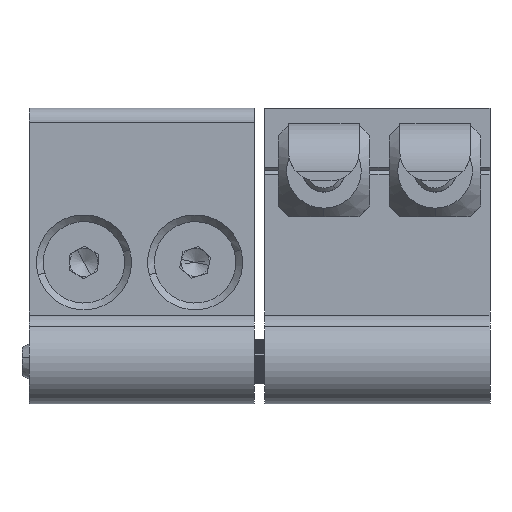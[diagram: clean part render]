
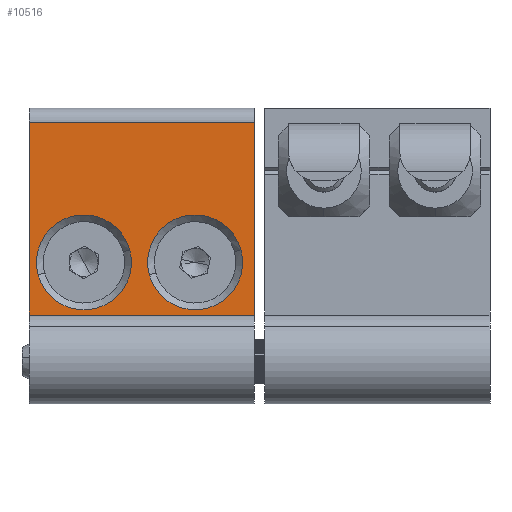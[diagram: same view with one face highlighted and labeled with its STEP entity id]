
A CAD part, front view. The second image highlights one B-rep face of the part: STEP entity #10516.
In plain terms, the highlighted planar face has unit normal (0, -1, 0).
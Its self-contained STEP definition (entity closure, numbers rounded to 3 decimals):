
#140 = CARTESIAN_POINT ( 'NONE',  ( -14.86, 3.429, -4.704 ) ) ;
#286 = VECTOR ( 'NONE', #6784, 1000. ) ;
#2138 = CARTESIAN_POINT ( 'NONE',  ( -39.06, 3.429, 2.782 ) ) ;
#2419 = EDGE_CURVE ( 'NONE', #23692, #26461, #23491, .T. ) ;
#3253 = ORIENTED_EDGE ( 'NONE', *, *, #4251, .F. ) ;
#3654 = DIRECTION ( 'NONE',  ( 0., 0., -1. ) ) ;
#3669 = CIRCLE ( 'NONE', #29510, 6.75 ) ;
#3769 = DIRECTION ( 'NONE',  ( 1., 0., 0. ) ) ;
#3882 = VERTEX_POINT ( 'NONE', #13625 ) ;
#4058 = CARTESIAN_POINT ( 'NONE',  ( -46.86, 3.429, -4.704 ) ) ;
#4251 = EDGE_CURVE ( 'NONE', #26155, #24048, #15334, .T. ) ;
#4832 = EDGE_LOOP ( 'NONE', ( #12842, #12892, #26760, #12056 ) ) ;
#4903 = CIRCLE ( 'NONE', #15172, 6.75 ) ;
#5330 = EDGE_CURVE ( 'NONE', #29412, #3882, #18668, .T. ) ;
#6726 = LINE ( 'NONE', #25185, #17387 ) ;
#6784 = DIRECTION ( 'NONE',  ( 0., 0., 1. ) ) ;
#6852 = VERTEX_POINT ( 'NONE', #29506 ) ;
#7318 = DIRECTION ( 'NONE',  ( 1., 0., 0. ) ) ;
#7970 = LINE ( 'NONE', #8555, #13394 ) ;
#8516 = AXIS2_PLACEMENT_3D ( 'NONE', #17409, #9961, #3654 ) ;
#8555 = CARTESIAN_POINT ( 'NONE',  ( -14.86, 3.429, 22.682 ) ) ;
#9450 = EDGE_CURVE ( 'NONE', #6852, #21596, #6726, .T. ) ;
#9961 = DIRECTION ( 'NONE',  ( 0., -1., 0. ) ) ;
#10344 = AXIS2_PLACEMENT_3D ( 'NONE', #2138, #22886, #27745 ) ;
#10417 = AXIS2_PLACEMENT_3D ( 'NONE', #19652, #17815, #3769 ) ;
#10516 = ADVANCED_FACE ( 'NONE', ( #24716, #19691, #19847 ), #26144, .T. ) ;
#11390 = CARTESIAN_POINT ( 'NONE',  ( -45.577, 3.429, 1.021 ) ) ;
#11675 = CARTESIAN_POINT ( 'NONE',  ( -39.06, 3.429, 2.782 ) ) ;
#12056 = ORIENTED_EDGE ( 'NONE', *, *, #9450, .T. ) ;
#12559 = CARTESIAN_POINT ( 'NONE',  ( -23.26, 3.429, 2.782 ) ) ;
#12842 = ORIENTED_EDGE ( 'NONE', *, *, #20790, .T. ) ;
#12892 = ORIENTED_EDGE ( 'NONE', *, *, #5330, .T. ) ;
#13394 = VECTOR ( 'NONE', #29316, 1000. ) ;
#13625 = CARTESIAN_POINT ( 'NONE',  ( -14.86, 3.429, 22.682 ) ) ;
#13687 = DIRECTION ( 'NONE',  ( -1., 0., 0. ) ) ;
#14014 = DIRECTION ( 'NONE',  ( 0., -1., 0. ) ) ;
#15172 = AXIS2_PLACEMENT_3D ( 'NONE', #11675, #14014, #13687 ) ;
#15302 = EDGE_LOOP ( 'NONE', ( #18272, #3253 ) ) ;
#15334 = CIRCLE ( 'NONE', #10417, 6.75 ) ;
#15454 = EDGE_CURVE ( 'NONE', #26461, #23692, #4903, .T. ) ;
#16425 = ORIENTED_EDGE ( 'NONE', *, *, #15454, .F. ) ;
#16571 = ORIENTED_EDGE ( 'NONE', *, *, #2419, .F. ) ;
#16596 = CARTESIAN_POINT ( 'NONE',  ( -29.777, 3.429, 1.021 ) ) ;
#16858 = DIRECTION ( 'NONE',  ( 0., -1., 0. ) ) ;
#17387 = VECTOR ( 'NONE', #22874, 1000. ) ;
#17409 = CARTESIAN_POINT ( 'NONE',  ( -14.22, 3.429, 8.989 ) ) ;
#17815 = DIRECTION ( 'NONE',  ( 0., -1., 0. ) ) ;
#18272 = ORIENTED_EDGE ( 'NONE', *, *, #29975, .F. ) ;
#18668 = LINE ( 'NONE', #27350, #286 ) ;
#19205 = LINE ( 'NONE', #25768, #29793 ) ;
#19652 = CARTESIAN_POINT ( 'NONE',  ( -23.26, 3.429, 2.782 ) ) ;
#19691 = FACE_BOUND ( 'NONE', #24259, .T. ) ;
#19847 = FACE_OUTER_BOUND ( 'NONE', #4832, .T. ) ;
#20147 = CARTESIAN_POINT ( 'NONE',  ( -16.744, 3.429, 4.542 ) ) ;
#20790 = EDGE_CURVE ( 'NONE', #21596, #29412, #19205, .T. ) ;
#21596 = VERTEX_POINT ( 'NONE', #4058 ) ;
#21845 = DIRECTION ( 'NONE',  ( 1., 0., 0. ) ) ;
#22874 = DIRECTION ( 'NONE',  ( 0., 0., -1. ) ) ;
#22886 = DIRECTION ( 'NONE',  ( 0., -1., 0. ) ) ;
#23491 = CIRCLE ( 'NONE', #10344, 6.75 ) ;
#23692 = VERTEX_POINT ( 'NONE', #11390 ) ;
#24048 = VERTEX_POINT ( 'NONE', #16596 ) ;
#24259 = EDGE_LOOP ( 'NONE', ( #16571, #16425 ) ) ;
#24716 = FACE_BOUND ( 'NONE', #15302, .T. ) ;
#25185 = CARTESIAN_POINT ( 'NONE',  ( -46.86, 3.429, 22.682 ) ) ;
#25768 = CARTESIAN_POINT ( 'NONE',  ( -46.86, 3.429, -4.704 ) ) ;
#26144 = PLANE ( 'NONE',  #8516 ) ;
#26155 = VERTEX_POINT ( 'NONE', #20147 ) ;
#26461 = VERTEX_POINT ( 'NONE', #30033 ) ;
#26760 = ORIENTED_EDGE ( 'NONE', *, *, #29227, .T. ) ;
#27350 = CARTESIAN_POINT ( 'NONE',  ( -14.86, 3.429, -4.704 ) ) ;
#27745 = DIRECTION ( 'NONE',  ( -1., 0., 0. ) ) ;
#29227 = EDGE_CURVE ( 'NONE', #3882, #6852, #7970, .T. ) ;
#29316 = DIRECTION ( 'NONE',  ( -1., 0., 0. ) ) ;
#29412 = VERTEX_POINT ( 'NONE', #140 ) ;
#29506 = CARTESIAN_POINT ( 'NONE',  ( -46.86, 3.429, 22.682 ) ) ;
#29510 = AXIS2_PLACEMENT_3D ( 'NONE', #12559, #16858, #21845 ) ;
#29793 = VECTOR ( 'NONE', #7318, 1000. ) ;
#29975 = EDGE_CURVE ( 'NONE', #24048, #26155, #3669, .T. ) ;
#30033 = CARTESIAN_POINT ( 'NONE',  ( -32.544, 3.429, 4.542 ) ) ;
